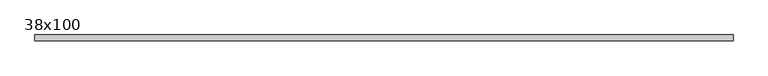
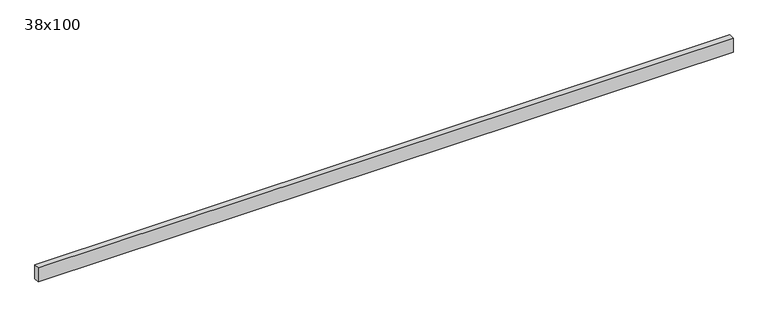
"""IFC4 building model written with IfcOpenShell, lengths in millimetres: beam geometry, Poutre - Bois de construction de dimensions courantes : 38x100."""

from ifc_helpers import new_model, si_unit, frame, origin, place, context, project, spatial, polyline, outline, extrude, source, transform, mapped, element, save


def beam_38x100_aab5a9cd(model_context):
    return source(origin(), model_context, "Body", "SweptSolid", [
        extrude(outline(polyline([(2322.0, 19.05), (2322.0, -19.05), (-2322.0, -19.05), (-2322.0, 19.05), (2322.0, 19.05)])), frame((0.0, 0.0, -50.0), z_axis=(0.0, 0.0, 1.0), x_axis=(1.0, 0.0, 0.0)), (0.0, 0.0, 1.0), 100.0),
    ])


if __name__ == "__main__":
    model = new_model("IFC4")
    model_context = context("Model", 3, world=origin())
    ifc_project = project(units=[si_unit("LENGTHUNIT", "METRE", prefix="MILLI")], contexts=[model_context])
    site = spatial("IfcSite", under=ifc_project)
    building = spatial("IfcBuilding", under=site)
    placement = place(None, origin())
    beam_38x100_shape = beam_38x100_aab5a9cd(model_context)
    element("IfcBeam", 1, ObjectType="Poutre - Bois de construction de dimensions courantes : 38x100", at=placement, inside=building, context=model_context, shape_type="MappedRepresentation", body=[
        mapped(beam_38x100_shape, transform((0.0, 0.0, 0.0), x_axis=(1.0, 0.0, 0.0), y_axis=(0.0, 1.0, 0.0), z_axis=(0.0, 0.0, 1.0))),
    ])
    save(model, "model.ifc")
